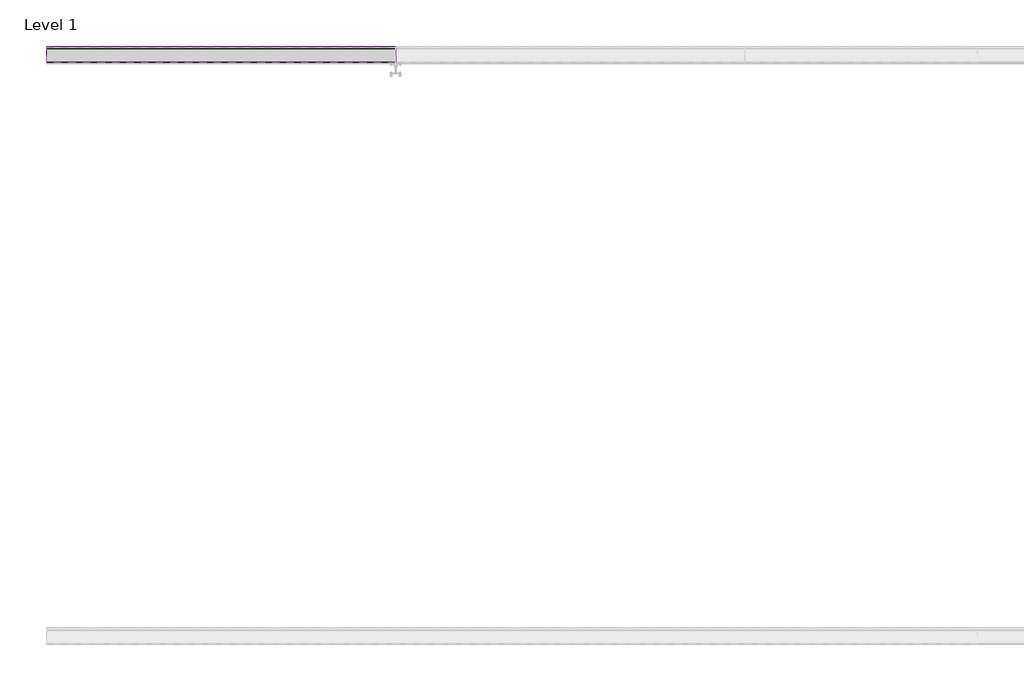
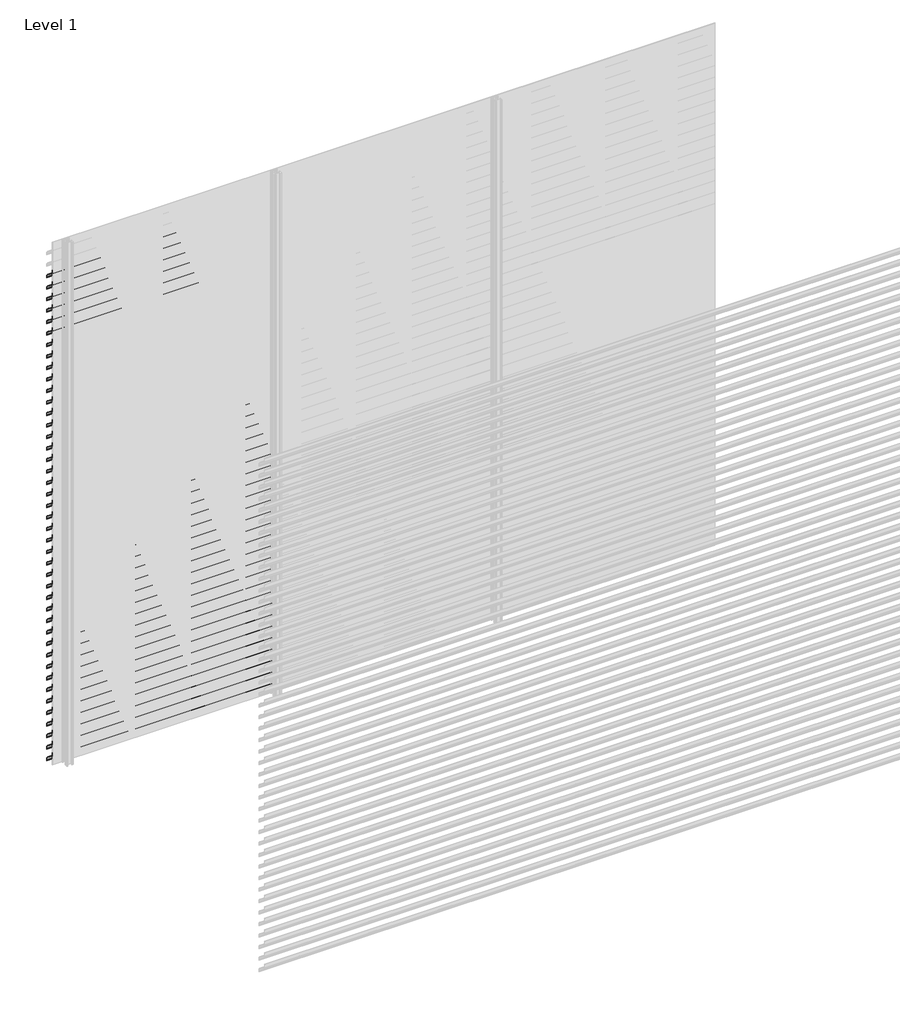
# One storey, part 132 of 540: 43 proxies.
"""IFC4 building model written with IfcOpenShell, lengths in millimetres."""

from ifc_helpers import new_model, si_unit, point, frame, frame_2d, origin, place, context, project, spatial, polyline, circle_curve, trimmed, segment, composite_curve, outline, extrude, element, save

model = new_model("IFC4")

# Units and contexts
model_context = context("Model", 3, world=origin())
ifc_project = project(units=[si_unit("LENGTHUNIT", "METRE", prefix="MILLI")], contexts=[model_context])

# Site, building, storey
site = spatial("IfcSite", under=ifc_project)
building = spatial("IfcBuilding", under=site)
storey = spatial("IfcBuildingStorey", under=building, Name="Level 1", Elevation=0.0)

# Proxies
placement = place(None, origin())
element("IfcBuildingElementProxy", 1, Name="Wall Sweeps", at=placement, inside=storey, context=model_context, shape_type="SweptSolid", body=[
    extrude(outline(composite_curve([segment(trimmed(circle_curve(frame_2d((21513.609548, 2767.7676769)), 26.4944656), [point((21530.5717655, 2788.1205608))], [point((21540.0540136, 2769.3946208))], False, "CARTESIAN"), True, "CONTINUOUS"), segment(polyline([(21540.0540136, 2769.3946208), (21540.0540136, 2761.5), (21538.8040136, 2762.2216933), (21538.8040136, 2767.7676769)]), True, "CONTINUOUS"), segment(trimmed(circle_curve(frame_2d((21513.609548, 2767.7676769)), 25.1944656), [point((21538.8040136, 2767.7676769))], [point((21529.7815085, 2787.086807))], True, "CARTESIAN"), True, "CONTINUOUS"), segment(polyline([(21529.7815085, 2787.086807), (21485.0540136, 2818.3158044), (21485.0540136, 2838.0), (21486.3040136, 2838.0), (21486.3040136, 2819.0285629), (21530.5717655, 2788.1205608)]), True, "CONTINUOUS")], self_intersect=False)), frame((89466.6208097, 0.0, 0.0), z_axis=(1.0, 0.0, 0.0), x_axis=(0.0, 1.0, 0.0)), (0.0, 0.0, 1.0), 1200.0000002),
])
element("IfcBuildingElementProxy", 2, Name="Wall Sweeps", at=placement, inside=storey, context=model_context, shape_type="SweptSolid", body=[
    extrude(outline(composite_curve([segment(trimmed(circle_curve(frame_2d((21513.609548, 2701.7676769)), 26.4944656), [point((21530.5717655, 2722.1205608))], [point((21540.0540136, 2703.3946208))], False, "CARTESIAN"), True, "CONTINUOUS"), segment(polyline([(21540.0540136, 2703.3946208), (21540.0540136, 2695.5), (21538.8040136, 2696.2216933), (21538.8040136, 2701.7676769)]), True, "CONTINUOUS"), segment(trimmed(circle_curve(frame_2d((21513.609548, 2701.7676769)), 25.1944656), [point((21538.8040136, 2701.7676769))], [point((21529.7815085, 2721.086807))], True, "CARTESIAN"), True, "CONTINUOUS"), segment(polyline([(21529.7815085, 2721.086807), (21485.0540136, 2752.3158044), (21485.0540136, 2772.0), (21486.3040136, 2772.0), (21486.3040136, 2753.0285629), (21530.5717655, 2722.1205608)]), True, "CONTINUOUS")], self_intersect=False)), frame((89466.6208097, 0.0, 0.0), z_axis=(1.0, 0.0, 0.0), x_axis=(0.0, 1.0, 0.0)), (0.0, 0.0, 1.0), 1200.0000002),
])
element("IfcBuildingElementProxy", 3, Name="Wall Sweeps", at=placement, inside=storey, context=model_context, shape_type="SweptSolid", body=[
    extrude(outline(composite_curve([segment(trimmed(circle_curve(frame_2d((21513.609548, 2635.7676769)), 26.4944656), [point((21530.5717655, 2656.1205608))], [point((21540.0540136, 2637.3946208))], False, "CARTESIAN"), True, "CONTINUOUS"), segment(polyline([(21540.0540136, 2637.3946208), (21540.0540136, 2629.5), (21538.8040136, 2630.2216933), (21538.8040136, 2635.7676769)]), True, "CONTINUOUS"), segment(trimmed(circle_curve(frame_2d((21513.609548, 2635.7676769)), 25.1944656), [point((21538.8040136, 2635.7676769))], [point((21529.7815085, 2655.086807))], True, "CARTESIAN"), True, "CONTINUOUS"), segment(polyline([(21529.7815085, 2655.086807), (21485.0540136, 2686.3158044), (21485.0540136, 2706.0), (21486.3040136, 2706.0), (21486.3040136, 2687.0285629), (21530.5717655, 2656.1205608)]), True, "CONTINUOUS")], self_intersect=False)), frame((89466.6208097, 0.0, 0.0), z_axis=(1.0, 0.0, 0.0), x_axis=(0.0, 1.0, 0.0)), (0.0, 0.0, 1.0), 1200.0000002),
])
element("IfcBuildingElementProxy", 4, Name="Wall Sweeps", at=placement, inside=storey, context=model_context, shape_type="SweptSolid", body=[
    extrude(outline(composite_curve([segment(trimmed(circle_curve(frame_2d((21513.609548, 2569.7676769)), 26.4944656), [point((21530.5717655, 2590.1205608))], [point((21540.0540136, 2571.3946208))], False, "CARTESIAN"), True, "CONTINUOUS"), segment(polyline([(21540.0540136, 2571.3946208), (21540.0540136, 2563.5), (21538.8040136, 2564.2216933), (21538.8040136, 2569.7676769)]), True, "CONTINUOUS"), segment(trimmed(circle_curve(frame_2d((21513.609548, 2569.7676769)), 25.1944656), [point((21538.8040136, 2569.7676769))], [point((21529.7815085, 2589.086807))], True, "CARTESIAN"), True, "CONTINUOUS"), segment(polyline([(21529.7815085, 2589.086807), (21485.0540136, 2620.3158044), (21485.0540136, 2640.0), (21486.3040136, 2640.0), (21486.3040136, 2621.0285629), (21530.5717655, 2590.1205608)]), True, "CONTINUOUS")], self_intersect=False)), frame((89466.6208097, 0.0, 0.0), z_axis=(1.0, 0.0, 0.0), x_axis=(0.0, 1.0, 0.0)), (0.0, 0.0, 1.0), 1200.0000002),
])
element("IfcBuildingElementProxy", 5, Name="Wall Sweeps", at=placement, inside=storey, context=model_context, shape_type="SweptSolid", body=[
    extrude(outline(composite_curve([segment(trimmed(circle_curve(frame_2d((21513.609548, 2503.7676769)), 26.4944656), [point((21530.5717655, 2524.1205608))], [point((21540.0540136, 2505.3946208))], False, "CARTESIAN"), True, "CONTINUOUS"), segment(polyline([(21540.0540136, 2505.3946208), (21540.0540136, 2497.5), (21538.8040136, 2498.2216933), (21538.8040136, 2503.7676769)]), True, "CONTINUOUS"), segment(trimmed(circle_curve(frame_2d((21513.609548, 2503.7676769)), 25.1944656), [point((21538.8040136, 2503.7676769))], [point((21529.7815085, 2523.086807))], True, "CARTESIAN"), True, "CONTINUOUS"), segment(polyline([(21529.7815085, 2523.086807), (21485.0540136, 2554.3158044), (21485.0540136, 2574.0), (21486.3040136, 2574.0), (21486.3040136, 2555.0285629), (21530.5717655, 2524.1205608)]), True, "CONTINUOUS")], self_intersect=False)), frame((89466.6208097, 0.0, 0.0), z_axis=(1.0, 0.0, 0.0), x_axis=(0.0, 1.0, 0.0)), (0.0, 0.0, 1.0), 1200.0000002),
])
element("IfcBuildingElementProxy", 6, Name="Wall Sweeps", at=placement, inside=storey, context=model_context, shape_type="SweptSolid", body=[
    extrude(outline(composite_curve([segment(trimmed(circle_curve(frame_2d((21513.609548, 2437.7676769)), 26.4944656), [point((21530.5717655, 2458.1205608))], [point((21540.0540136, 2439.3946208))], False, "CARTESIAN"), True, "CONTINUOUS"), segment(polyline([(21540.0540136, 2439.3946208), (21540.0540136, 2431.5), (21538.8040136, 2432.2216933), (21538.8040136, 2437.7676769)]), True, "CONTINUOUS"), segment(trimmed(circle_curve(frame_2d((21513.609548, 2437.7676769)), 25.1944656), [point((21538.8040136, 2437.7676769))], [point((21529.7815085, 2457.086807))], True, "CARTESIAN"), True, "CONTINUOUS"), segment(polyline([(21529.7815085, 2457.086807), (21485.0540136, 2488.3158044), (21485.0540136, 2508.0), (21486.3040136, 2508.0), (21486.3040136, 2489.0285629), (21530.5717655, 2458.1205608)]), True, "CONTINUOUS")], self_intersect=False)), frame((89466.6208097, 0.0, 0.0), z_axis=(1.0, 0.0, 0.0), x_axis=(0.0, 1.0, 0.0)), (0.0, 0.0, 1.0), 1200.0000002),
])
element("IfcBuildingElementProxy", 7, Name="Wall Sweeps", at=placement, inside=storey, context=model_context, shape_type="SweptSolid", body=[
    extrude(outline(composite_curve([segment(trimmed(circle_curve(frame_2d((21513.609548, 2371.7676769)), 26.4944656), [point((21530.5717655, 2392.1205608))], [point((21540.0540136, 2373.3946208))], False, "CARTESIAN"), True, "CONTINUOUS"), segment(polyline([(21540.0540136, 2373.3946208), (21540.0540136, 2365.5), (21538.8040136, 2366.2216933), (21538.8040136, 2371.7676769)]), True, "CONTINUOUS"), segment(trimmed(circle_curve(frame_2d((21513.609548, 2371.7676769)), 25.1944656), [point((21538.8040136, 2371.7676769))], [point((21529.7815085, 2391.086807))], True, "CARTESIAN"), True, "CONTINUOUS"), segment(polyline([(21529.7815085, 2391.086807), (21485.0540136, 2422.3158044), (21485.0540136, 2442.0), (21486.3040136, 2442.0), (21486.3040136, 2423.0285629), (21530.5717655, 2392.1205608)]), True, "CONTINUOUS")], self_intersect=False)), frame((89466.6208097, 0.0, 0.0), z_axis=(1.0, 0.0, 0.0), x_axis=(0.0, 1.0, 0.0)), (0.0, 0.0, 1.0), 1200.0000002),
])
element("IfcBuildingElementProxy", 8, Name="Wall Sweeps", at=placement, inside=storey, context=model_context, shape_type="SweptSolid", body=[
    extrude(outline(composite_curve([segment(trimmed(circle_curve(frame_2d((21513.609548, 2305.7676769)), 26.4944656), [point((21530.5717655, 2326.1205608))], [point((21540.0540136, 2307.3946208))], False, "CARTESIAN"), True, "CONTINUOUS"), segment(polyline([(21540.0540136, 2307.3946208), (21540.0540136, 2299.5), (21538.8040136, 2300.2216933), (21538.8040136, 2305.7676769)]), True, "CONTINUOUS"), segment(trimmed(circle_curve(frame_2d((21513.609548, 2305.7676769)), 25.1944656), [point((21538.8040136, 2305.7676769))], [point((21529.7815085, 2325.086807))], True, "CARTESIAN"), True, "CONTINUOUS"), segment(polyline([(21529.7815085, 2325.086807), (21485.0540136, 2356.3158044), (21485.0540136, 2376.0), (21486.3040136, 2376.0), (21486.3040136, 2357.0285629), (21530.5717655, 2326.1205608)]), True, "CONTINUOUS")], self_intersect=False)), frame((89466.6208097, 0.0, 0.0), z_axis=(1.0, 0.0, 0.0), x_axis=(0.0, 1.0, 0.0)), (0.0, 0.0, 1.0), 1200.0000002),
])
element("IfcBuildingElementProxy", 9, Name="Wall Sweeps", at=placement, inside=storey, context=model_context, shape_type="SweptSolid", body=[
    extrude(outline(composite_curve([segment(trimmed(circle_curve(frame_2d((21513.609548, 2239.7676769)), 26.4944656), [point((21530.5717655, 2260.1205608))], [point((21540.0540136, 2241.3946208))], False, "CARTESIAN"), True, "CONTINUOUS"), segment(polyline([(21540.0540136, 2241.3946208), (21540.0540136, 2233.5), (21538.8040136, 2234.2216933), (21538.8040136, 2239.7676769)]), True, "CONTINUOUS"), segment(trimmed(circle_curve(frame_2d((21513.609548, 2239.7676769)), 25.1944656), [point((21538.8040136, 2239.7676769))], [point((21529.7815085, 2259.086807))], True, "CARTESIAN"), True, "CONTINUOUS"), segment(polyline([(21529.7815085, 2259.086807), (21485.0540136, 2290.3158044), (21485.0540136, 2310.0), (21486.3040136, 2310.0), (21486.3040136, 2291.0285629), (21530.5717655, 2260.1205608)]), True, "CONTINUOUS")], self_intersect=False)), frame((89466.6208097, 0.0, 0.0), z_axis=(1.0, 0.0, 0.0), x_axis=(0.0, 1.0, 0.0)), (0.0, 0.0, 1.0), 1200.0000002),
])
element("IfcBuildingElementProxy", 10, Name="Wall Sweeps", at=placement, inside=storey, context=model_context, shape_type="SweptSolid", body=[
    extrude(outline(composite_curve([segment(trimmed(circle_curve(frame_2d((21513.609548, 2173.7676769)), 26.4944656), [point((21530.5717655, 2194.1205608))], [point((21540.0540136, 2175.3946208))], False, "CARTESIAN"), True, "CONTINUOUS"), segment(polyline([(21540.0540136, 2175.3946208), (21540.0540136, 2167.5), (21538.8040136, 2168.2216933), (21538.8040136, 2173.7676769)]), True, "CONTINUOUS"), segment(trimmed(circle_curve(frame_2d((21513.609548, 2173.7676769)), 25.1944656), [point((21538.8040136, 2173.7676769))], [point((21529.7815085, 2193.086807))], True, "CARTESIAN"), True, "CONTINUOUS"), segment(polyline([(21529.7815085, 2193.086807), (21485.0540136, 2224.3158044), (21485.0540136, 2244.0), (21486.3040136, 2244.0), (21486.3040136, 2225.0285629), (21530.5717655, 2194.1205608)]), True, "CONTINUOUS")], self_intersect=False)), frame((89466.6208097, 0.0, 0.0), z_axis=(1.0, 0.0, 0.0), x_axis=(0.0, 1.0, 0.0)), (0.0, 0.0, 1.0), 1200.0000002),
])
element("IfcBuildingElementProxy", 11, Name="Wall Sweeps", at=placement, inside=storey, context=model_context, shape_type="SweptSolid", body=[
    extrude(outline(composite_curve([segment(trimmed(circle_curve(frame_2d((21513.609548, 2107.7676769)), 26.4944656), [point((21530.5717655, 2128.1205608))], [point((21540.0540136, 2109.3946208))], False, "CARTESIAN"), True, "CONTINUOUS"), segment(polyline([(21540.0540136, 2109.3946208), (21540.0540136, 2101.5), (21538.8040136, 2102.2216933), (21538.8040136, 2107.7676769)]), True, "CONTINUOUS"), segment(trimmed(circle_curve(frame_2d((21513.609548, 2107.7676769)), 25.1944656), [point((21538.8040136, 2107.7676769))], [point((21529.7815085, 2127.086807))], True, "CARTESIAN"), True, "CONTINUOUS"), segment(polyline([(21529.7815085, 2127.086807), (21485.0540136, 2158.3158044), (21485.0540136, 2178.0), (21486.3040136, 2178.0), (21486.3040136, 2159.0285629), (21530.5717655, 2128.1205608)]), True, "CONTINUOUS")], self_intersect=False)), frame((89466.6208097, 0.0, 0.0), z_axis=(1.0, 0.0, 0.0), x_axis=(0.0, 1.0, 0.0)), (0.0, 0.0, 1.0), 1200.0000002),
])
element("IfcBuildingElementProxy", 12, Name="Wall Sweeps", at=placement, inside=storey, context=model_context, shape_type="SweptSolid", body=[
    extrude(outline(composite_curve([segment(trimmed(circle_curve(frame_2d((21513.609548, 2041.7676769)), 26.4944656), [point((21530.5717655, 2062.1205608))], [point((21540.0540136, 2043.3946208))], False, "CARTESIAN"), True, "CONTINUOUS"), segment(polyline([(21540.0540136, 2043.3946208), (21540.0540136, 2035.5), (21538.8040136, 2036.2216933), (21538.8040136, 2041.7676769)]), True, "CONTINUOUS"), segment(trimmed(circle_curve(frame_2d((21513.609548, 2041.7676769)), 25.1944656), [point((21538.8040136, 2041.7676769))], [point((21529.7815085, 2061.086807))], True, "CARTESIAN"), True, "CONTINUOUS"), segment(polyline([(21529.7815085, 2061.086807), (21485.0540136, 2092.3158044), (21485.0540136, 2112.0), (21486.3040136, 2112.0), (21486.3040136, 2093.0285629), (21530.5717655, 2062.1205608)]), True, "CONTINUOUS")], self_intersect=False)), frame((89466.6208097, 0.0, 0.0), z_axis=(1.0, 0.0, 0.0), x_axis=(0.0, 1.0, 0.0)), (0.0, 0.0, 1.0), 1200.0000002),
])
element("IfcBuildingElementProxy", 13, Name="Wall Sweeps", at=placement, inside=storey, context=model_context, shape_type="SweptSolid", body=[
    extrude(outline(composite_curve([segment(trimmed(circle_curve(frame_2d((21513.609548, 1975.7676769)), 26.4944656), [point((21530.5717655, 1996.1205608))], [point((21540.0540136, 1977.3946208))], False, "CARTESIAN"), True, "CONTINUOUS"), segment(polyline([(21540.0540136, 1977.3946208), (21540.0540136, 1969.5), (21538.8040136, 1970.2216933), (21538.8040136, 1975.7676769)]), True, "CONTINUOUS"), segment(trimmed(circle_curve(frame_2d((21513.609548, 1975.7676769)), 25.1944656), [point((21538.8040136, 1975.7676769))], [point((21529.7815085, 1995.086807))], True, "CARTESIAN"), True, "CONTINUOUS"), segment(polyline([(21529.7815085, 1995.086807), (21485.0540136, 2026.3158044), (21485.0540136, 2046.0), (21486.3040136, 2046.0), (21486.3040136, 2027.0285629), (21530.5717655, 1996.1205608)]), True, "CONTINUOUS")], self_intersect=False)), frame((89466.6208097, 0.0, 0.0), z_axis=(1.0, 0.0, 0.0), x_axis=(0.0, 1.0, 0.0)), (0.0, 0.0, 1.0), 1200.0000002),
])
element("IfcBuildingElementProxy", 14, Name="Wall Sweeps", at=placement, inside=storey, context=model_context, shape_type="SweptSolid", body=[
    extrude(outline(composite_curve([segment(trimmed(circle_curve(frame_2d((21513.609548, 1909.7676769)), 26.4944656), [point((21530.5717655, 1930.1205608))], [point((21540.0540136, 1911.3946208))], False, "CARTESIAN"), True, "CONTINUOUS"), segment(polyline([(21540.0540136, 1911.3946208), (21540.0540136, 1903.5), (21538.8040136, 1904.2216933), (21538.8040136, 1909.7676769)]), True, "CONTINUOUS"), segment(trimmed(circle_curve(frame_2d((21513.609548, 1909.7676769)), 25.1944656), [point((21538.8040136, 1909.7676769))], [point((21529.7815085, 1929.086807))], True, "CARTESIAN"), True, "CONTINUOUS"), segment(polyline([(21529.7815085, 1929.086807), (21485.0540136, 1960.3158044), (21485.0540136, 1980.0), (21486.3040136, 1980.0), (21486.3040136, 1961.0285629), (21530.5717655, 1930.1205608)]), True, "CONTINUOUS")], self_intersect=False)), frame((89466.6208097, 0.0, 0.0), z_axis=(1.0, 0.0, 0.0), x_axis=(0.0, 1.0, 0.0)), (0.0, 0.0, 1.0), 1200.0000002),
])
element("IfcBuildingElementProxy", 15, Name="Wall Sweeps", at=placement, inside=storey, context=model_context, shape_type="SweptSolid", body=[
    extrude(outline(composite_curve([segment(trimmed(circle_curve(frame_2d((21513.609548, 1843.7676769)), 26.4944656), [point((21530.5717655, 1864.1205608))], [point((21540.0540136, 1845.3946208))], False, "CARTESIAN"), True, "CONTINUOUS"), segment(polyline([(21540.0540136, 1845.3946208), (21540.0540136, 1837.5), (21538.8040136, 1838.2216933), (21538.8040136, 1843.7676769)]), True, "CONTINUOUS"), segment(trimmed(circle_curve(frame_2d((21513.609548, 1843.7676769)), 25.1944656), [point((21538.8040136, 1843.7676769))], [point((21529.7815085, 1863.086807))], True, "CARTESIAN"), True, "CONTINUOUS"), segment(polyline([(21529.7815085, 1863.086807), (21485.0540136, 1894.3158044), (21485.0540136, 1914.0), (21486.3040136, 1914.0), (21486.3040136, 1895.0285629), (21530.5717655, 1864.1205608)]), True, "CONTINUOUS")], self_intersect=False)), frame((89466.6208097, 0.0, 0.0), z_axis=(1.0, 0.0, 0.0), x_axis=(0.0, 1.0, 0.0)), (0.0, 0.0, 1.0), 1200.0000002),
])
element("IfcBuildingElementProxy", 16, Name="Wall Sweeps", at=placement, inside=storey, context=model_context, shape_type="SweptSolid", body=[
    extrude(outline(composite_curve([segment(trimmed(circle_curve(frame_2d((21513.609548, 1777.7676769)), 26.4944656), [point((21530.5717655, 1798.1205608))], [point((21540.0540136, 1779.3946208))], False, "CARTESIAN"), True, "CONTINUOUS"), segment(polyline([(21540.0540136, 1779.3946208), (21540.0540136, 1771.5), (21538.8040136, 1772.2216933), (21538.8040136, 1777.7676769)]), True, "CONTINUOUS"), segment(trimmed(circle_curve(frame_2d((21513.609548, 1777.7676769)), 25.1944656), [point((21538.8040136, 1777.7676769))], [point((21529.7815085, 1797.086807))], True, "CARTESIAN"), True, "CONTINUOUS"), segment(polyline([(21529.7815085, 1797.086807), (21485.0540136, 1828.3158044), (21485.0540136, 1848.0), (21486.3040136, 1848.0), (21486.3040136, 1829.0285629), (21530.5717655, 1798.1205608)]), True, "CONTINUOUS")], self_intersect=False)), frame((89466.6208097, 0.0, 0.0), z_axis=(1.0, 0.0, 0.0), x_axis=(0.0, 1.0, 0.0)), (0.0, 0.0, 1.0), 1200.0000002),
])
element("IfcBuildingElementProxy", 17, Name="Wall Sweeps", at=placement, inside=storey, context=model_context, shape_type="SweptSolid", body=[
    extrude(outline(composite_curve([segment(trimmed(circle_curve(frame_2d((21513.609548, 1711.7676769)), 26.4944656), [point((21530.5717655, 1732.1205608))], [point((21540.0540136, 1713.3946208))], False, "CARTESIAN"), True, "CONTINUOUS"), segment(polyline([(21540.0540136, 1713.3946208), (21540.0540136, 1705.5), (21538.8040136, 1706.2216933), (21538.8040136, 1711.7676769)]), True, "CONTINUOUS"), segment(trimmed(circle_curve(frame_2d((21513.609548, 1711.7676769)), 25.1944656), [point((21538.8040136, 1711.7676769))], [point((21529.7815085, 1731.086807))], True, "CARTESIAN"), True, "CONTINUOUS"), segment(polyline([(21529.7815085, 1731.086807), (21485.0540136, 1762.3158044), (21485.0540136, 1782.0), (21486.3040136, 1782.0), (21486.3040136, 1763.0285629), (21530.5717655, 1732.1205608)]), True, "CONTINUOUS")], self_intersect=False)), frame((89466.6208097, 0.0, 0.0), z_axis=(1.0, 0.0, 0.0), x_axis=(0.0, 1.0, 0.0)), (0.0, 0.0, 1.0), 1200.0000002),
])
element("IfcBuildingElementProxy", 18, Name="Wall Sweeps", at=placement, inside=storey, context=model_context, shape_type="SweptSolid", body=[
    extrude(outline(composite_curve([segment(trimmed(circle_curve(frame_2d((21513.609548, 1645.7676769)), 26.4944656), [point((21530.5717655, 1666.1205608))], [point((21540.0540136, 1647.3946208))], False, "CARTESIAN"), True, "CONTINUOUS"), segment(polyline([(21540.0540136, 1647.3946208), (21540.0540136, 1639.5), (21538.8040136, 1640.2216933), (21538.8040136, 1645.7676769)]), True, "CONTINUOUS"), segment(trimmed(circle_curve(frame_2d((21513.609548, 1645.7676769)), 25.1944656), [point((21538.8040136, 1645.7676769))], [point((21529.7815085, 1665.086807))], True, "CARTESIAN"), True, "CONTINUOUS"), segment(polyline([(21529.7815085, 1665.086807), (21485.0540136, 1696.3158044), (21485.0540136, 1716.0), (21486.3040136, 1716.0), (21486.3040136, 1697.0285629), (21530.5717655, 1666.1205608)]), True, "CONTINUOUS")], self_intersect=False)), frame((89466.6208097, 0.0, 0.0), z_axis=(1.0, 0.0, 0.0), x_axis=(0.0, 1.0, 0.0)), (0.0, 0.0, 1.0), 1200.0000002),
])
element("IfcBuildingElementProxy", 19, Name="Wall Sweeps", at=placement, inside=storey, context=model_context, shape_type="SweptSolid", body=[
    extrude(outline(composite_curve([segment(trimmed(circle_curve(frame_2d((21513.609548, 1579.7676769)), 26.4944656), [point((21530.5717655, 1600.1205608))], [point((21540.0540136, 1581.3946208))], False, "CARTESIAN"), True, "CONTINUOUS"), segment(polyline([(21540.0540136, 1581.3946208), (21540.0540136, 1573.5), (21538.8040136, 1574.2216933), (21538.8040136, 1579.7676769)]), True, "CONTINUOUS"), segment(trimmed(circle_curve(frame_2d((21513.609548, 1579.7676769)), 25.1944656), [point((21538.8040136, 1579.7676769))], [point((21529.7815085, 1599.086807))], True, "CARTESIAN"), True, "CONTINUOUS"), segment(polyline([(21529.7815085, 1599.086807), (21485.0540136, 1630.3158044), (21485.0540136, 1650.0), (21486.3040136, 1650.0), (21486.3040136, 1631.0285629), (21530.5717655, 1600.1205608)]), True, "CONTINUOUS")], self_intersect=False)), frame((89466.6208097, 0.0, 0.0), z_axis=(1.0, 0.0, 0.0), x_axis=(0.0, 1.0, 0.0)), (0.0, 0.0, 1.0), 1200.0000002),
])
element("IfcBuildingElementProxy", 20, Name="Wall Sweeps", at=placement, inside=storey, context=model_context, shape_type="SweptSolid", body=[
    extrude(outline(composite_curve([segment(trimmed(circle_curve(frame_2d((21513.609548, 1513.7676769)), 26.4944656), [point((21530.5717655, 1534.1205608))], [point((21540.0540136, 1515.3946208))], False, "CARTESIAN"), True, "CONTINUOUS"), segment(polyline([(21540.0540136, 1515.3946208), (21540.0540136, 1507.5), (21538.8040136, 1508.2216933), (21538.8040136, 1513.7676769)]), True, "CONTINUOUS"), segment(trimmed(circle_curve(frame_2d((21513.609548, 1513.7676769)), 25.1944656), [point((21538.8040136, 1513.7676769))], [point((21529.7815085, 1533.086807))], True, "CARTESIAN"), True, "CONTINUOUS"), segment(polyline([(21529.7815085, 1533.086807), (21485.0540136, 1564.3158044), (21485.0540136, 1584.0), (21486.3040136, 1584.0), (21486.3040136, 1565.0285629), (21530.5717655, 1534.1205608)]), True, "CONTINUOUS")], self_intersect=False)), frame((89466.6208097, 0.0, 0.0), z_axis=(1.0, 0.0, 0.0), x_axis=(0.0, 1.0, 0.0)), (0.0, 0.0, 1.0), 1200.0000002),
])
element("IfcBuildingElementProxy", 21, Name="Wall Sweeps", at=placement, inside=storey, context=model_context, shape_type="SweptSolid", body=[
    extrude(outline(composite_curve([segment(trimmed(circle_curve(frame_2d((21513.609548, 1447.7676769)), 26.4944656), [point((21530.5717655, 1468.1205608))], [point((21540.0540136, 1449.3946208))], False, "CARTESIAN"), True, "CONTINUOUS"), segment(polyline([(21540.0540136, 1449.3946208), (21540.0540136, 1441.5), (21538.8040136, 1442.2216933), (21538.8040136, 1447.7676769)]), True, "CONTINUOUS"), segment(trimmed(circle_curve(frame_2d((21513.609548, 1447.7676769)), 25.1944656), [point((21538.8040136, 1447.7676769))], [point((21529.7815085, 1467.086807))], True, "CARTESIAN"), True, "CONTINUOUS"), segment(polyline([(21529.7815085, 1467.086807), (21485.0540136, 1498.3158044), (21485.0540136, 1518.0), (21486.3040136, 1518.0), (21486.3040136, 1499.0285629), (21530.5717655, 1468.1205608)]), True, "CONTINUOUS")], self_intersect=False)), frame((89466.6208097, 0.0, 0.0), z_axis=(1.0, 0.0, 0.0), x_axis=(0.0, 1.0, 0.0)), (0.0, 0.0, 1.0), 1200.0000002),
])
element("IfcBuildingElementProxy", 22, Name="Wall Sweeps", at=placement, inside=storey, context=model_context, shape_type="SweptSolid", body=[
    extrude(outline(composite_curve([segment(trimmed(circle_curve(frame_2d((21513.609548, 1381.7676769)), 26.4944656), [point((21530.5717655, 1402.1205608))], [point((21540.0540136, 1383.3946208))], False, "CARTESIAN"), True, "CONTINUOUS"), segment(polyline([(21540.0540136, 1383.3946208), (21540.0540136, 1375.5), (21538.8040136, 1376.2216933), (21538.8040136, 1381.7676769)]), True, "CONTINUOUS"), segment(trimmed(circle_curve(frame_2d((21513.609548, 1381.7676769)), 25.1944656), [point((21538.8040136, 1381.7676769))], [point((21529.7815085, 1401.086807))], True, "CARTESIAN"), True, "CONTINUOUS"), segment(polyline([(21529.7815085, 1401.086807), (21485.0540136, 1432.3158044), (21485.0540136, 1452.0), (21486.3040136, 1452.0), (21486.3040136, 1433.0285629), (21530.5717655, 1402.1205608)]), True, "CONTINUOUS")], self_intersect=False)), frame((89466.6208097, 0.0, 0.0), z_axis=(1.0, 0.0, 0.0), x_axis=(0.0, 1.0, 0.0)), (0.0, 0.0, 1.0), 1200.0000002),
])
element("IfcBuildingElementProxy", 23, Name="Wall Sweeps", at=placement, inside=storey, context=model_context, shape_type="SweptSolid", body=[
    extrude(outline(composite_curve([segment(trimmed(circle_curve(frame_2d((21513.609548, 1315.7676769)), 26.4944656), [point((21530.5717655, 1336.1205608))], [point((21540.0540136, 1317.3946208))], False, "CARTESIAN"), True, "CONTINUOUS"), segment(polyline([(21540.0540136, 1317.3946208), (21540.0540136, 1309.5), (21538.8040136, 1310.2216933), (21538.8040136, 1315.7676769)]), True, "CONTINUOUS"), segment(trimmed(circle_curve(frame_2d((21513.609548, 1315.7676769)), 25.1944656), [point((21538.8040136, 1315.7676769))], [point((21529.7815085, 1335.086807))], True, "CARTESIAN"), True, "CONTINUOUS"), segment(polyline([(21529.7815085, 1335.086807), (21485.0540136, 1366.3158044), (21485.0540136, 1386.0), (21486.3040136, 1386.0), (21486.3040136, 1367.0285629), (21530.5717655, 1336.1205608)]), True, "CONTINUOUS")], self_intersect=False)), frame((89466.6208097, 0.0, 0.0), z_axis=(1.0, 0.0, 0.0), x_axis=(0.0, 1.0, 0.0)), (0.0, 0.0, 1.0), 1200.0000002),
])
element("IfcBuildingElementProxy", 24, Name="Wall Sweeps", at=placement, inside=storey, context=model_context, shape_type="SweptSolid", body=[
    extrude(outline(composite_curve([segment(trimmed(circle_curve(frame_2d((21513.609548, 1249.7676769)), 26.4944656), [point((21530.5717655, 1270.1205608))], [point((21540.0540136, 1251.3946208))], False, "CARTESIAN"), True, "CONTINUOUS"), segment(polyline([(21540.0540136, 1251.3946208), (21540.0540136, 1243.5), (21538.8040136, 1244.2216933), (21538.8040136, 1249.7676769)]), True, "CONTINUOUS"), segment(trimmed(circle_curve(frame_2d((21513.609548, 1249.7676769)), 25.1944656), [point((21538.8040136, 1249.7676769))], [point((21529.7815085, 1269.086807))], True, "CARTESIAN"), True, "CONTINUOUS"), segment(polyline([(21529.7815085, 1269.086807), (21485.0540136, 1300.3158044), (21485.0540136, 1320.0), (21486.3040136, 1320.0), (21486.3040136, 1301.0285629), (21530.5717655, 1270.1205608)]), True, "CONTINUOUS")], self_intersect=False)), frame((89466.6208097, 0.0, 0.0), z_axis=(1.0, 0.0, 0.0), x_axis=(0.0, 1.0, 0.0)), (0.0, 0.0, 1.0), 1200.0000002),
])
element("IfcBuildingElementProxy", 25, Name="Wall Sweeps", at=placement, inside=storey, context=model_context, shape_type="SweptSolid", body=[
    extrude(outline(composite_curve([segment(trimmed(circle_curve(frame_2d((21513.609548, 1183.7676769)), 26.4944656), [point((21530.5717655, 1204.1205608))], [point((21540.0540136, 1185.3946208))], False, "CARTESIAN"), True, "CONTINUOUS"), segment(polyline([(21540.0540136, 1185.3946208), (21540.0540136, 1177.5), (21538.8040136, 1178.2216933), (21538.8040136, 1183.7676769)]), True, "CONTINUOUS"), segment(trimmed(circle_curve(frame_2d((21513.609548, 1183.7676769)), 25.1944656), [point((21538.8040136, 1183.7676769))], [point((21529.7815085, 1203.086807))], True, "CARTESIAN"), True, "CONTINUOUS"), segment(polyline([(21529.7815085, 1203.086807), (21485.0540136, 1234.3158044), (21485.0540136, 1254.0), (21486.3040136, 1254.0), (21486.3040136, 1235.0285629), (21530.5717655, 1204.1205608)]), True, "CONTINUOUS")], self_intersect=False)), frame((89466.6208097, 0.0, 0.0), z_axis=(1.0, 0.0, 0.0), x_axis=(0.0, 1.0, 0.0)), (0.0, 0.0, 1.0), 1200.0000002),
])
element("IfcBuildingElementProxy", 26, Name="Wall Sweeps", at=placement, inside=storey, context=model_context, shape_type="SweptSolid", body=[
    extrude(outline(composite_curve([segment(trimmed(circle_curve(frame_2d((21513.609548, 1117.7676769)), 26.4944656), [point((21530.5717655, 1138.1205608))], [point((21540.0540136, 1119.3946208))], False, "CARTESIAN"), True, "CONTINUOUS"), segment(polyline([(21540.0540136, 1119.3946208), (21540.0540136, 1111.5), (21538.8040136, 1112.2216933), (21538.8040136, 1117.7676769)]), True, "CONTINUOUS"), segment(trimmed(circle_curve(frame_2d((21513.609548, 1117.7676769)), 25.1944656), [point((21538.8040136, 1117.7676769))], [point((21529.7815085, 1137.086807))], True, "CARTESIAN"), True, "CONTINUOUS"), segment(polyline([(21529.7815085, 1137.086807), (21485.0540136, 1168.3158044), (21485.0540136, 1188.0), (21486.3040136, 1188.0), (21486.3040136, 1169.0285629), (21530.5717655, 1138.1205608)]), True, "CONTINUOUS")], self_intersect=False)), frame((89466.6208097, 0.0, 0.0), z_axis=(1.0, 0.0, 0.0), x_axis=(0.0, 1.0, 0.0)), (0.0, 0.0, 1.0), 1200.0000002),
])
element("IfcBuildingElementProxy", 27, Name="Wall Sweeps", at=placement, inside=storey, context=model_context, shape_type="SweptSolid", body=[
    extrude(outline(composite_curve([segment(trimmed(circle_curve(frame_2d((21513.609548, 1051.7676769)), 26.4944656), [point((21530.5717655, 1072.1205608))], [point((21540.0540136, 1053.3946208))], False, "CARTESIAN"), True, "CONTINUOUS"), segment(polyline([(21540.0540136, 1053.3946208), (21540.0540136, 1045.5), (21538.8040136, 1046.2216933), (21538.8040136, 1051.7676769)]), True, "CONTINUOUS"), segment(trimmed(circle_curve(frame_2d((21513.609548, 1051.7676769)), 25.1944656), [point((21538.8040136, 1051.7676769))], [point((21529.7815085, 1071.086807))], True, "CARTESIAN"), True, "CONTINUOUS"), segment(polyline([(21529.7815085, 1071.086807), (21485.0540136, 1102.3158044), (21485.0540136, 1122.0), (21486.3040136, 1122.0), (21486.3040136, 1103.0285629), (21530.5717655, 1072.1205608)]), True, "CONTINUOUS")], self_intersect=False)), frame((89466.6208097, 0.0, 0.0), z_axis=(1.0, 0.0, 0.0), x_axis=(0.0, 1.0, 0.0)), (0.0, 0.0, 1.0), 1200.0000002),
])
element("IfcBuildingElementProxy", 28, Name="Wall Sweeps", at=placement, inside=storey, context=model_context, shape_type="SweptSolid", body=[
    extrude(outline(composite_curve([segment(trimmed(circle_curve(frame_2d((21513.609548, 985.7676769)), 26.4944656), [point((21530.5717655, 1006.1205608))], [point((21540.0540136, 987.3946208))], False, "CARTESIAN"), True, "CONTINUOUS"), segment(polyline([(21540.0540136, 987.3946208), (21540.0540136, 979.5), (21538.8040136, 980.2216933), (21538.8040136, 985.7676769)]), True, "CONTINUOUS"), segment(trimmed(circle_curve(frame_2d((21513.609548, 985.7676769)), 25.1944656), [point((21538.8040136, 985.7676769))], [point((21529.7815085, 1005.086807))], True, "CARTESIAN"), True, "CONTINUOUS"), segment(polyline([(21529.7815085, 1005.086807), (21485.0540136, 1036.3158044), (21485.0540136, 1056.0), (21486.3040136, 1056.0), (21486.3040136, 1037.0285629), (21530.5717655, 1006.1205608)]), True, "CONTINUOUS")], self_intersect=False)), frame((89466.6208097, 0.0, 0.0), z_axis=(1.0, 0.0, 0.0), x_axis=(0.0, 1.0, 0.0)), (0.0, 0.0, 1.0), 1200.0000002),
])
element("IfcBuildingElementProxy", 29, Name="Wall Sweeps", at=placement, inside=storey, context=model_context, shape_type="SweptSolid", body=[
    extrude(outline(composite_curve([segment(trimmed(circle_curve(frame_2d((21513.609548, 919.7676769)), 26.4944656), [point((21530.5717655, 940.1205608))], [point((21540.0540136, 921.3946208))], False, "CARTESIAN"), True, "CONTINUOUS"), segment(polyline([(21540.0540136, 921.3946208), (21540.0540136, 913.5), (21538.8040136, 914.2216933), (21538.8040136, 919.7676769)]), True, "CONTINUOUS"), segment(trimmed(circle_curve(frame_2d((21513.609548, 919.7676769)), 25.1944656), [point((21538.8040136, 919.7676769))], [point((21529.7815085, 939.086807))], True, "CARTESIAN"), True, "CONTINUOUS"), segment(polyline([(21529.7815085, 939.086807), (21485.0540136, 970.3158044), (21485.0540136, 990.0), (21486.3040136, 990.0), (21486.3040136, 971.0285629), (21530.5717655, 940.1205608)]), True, "CONTINUOUS")], self_intersect=False)), frame((89466.6208097, 0.0, 0.0), z_axis=(1.0, 0.0, 0.0), x_axis=(0.0, 1.0, 0.0)), (0.0, 0.0, 1.0), 1200.0000002),
])
element("IfcBuildingElementProxy", 30, Name="Wall Sweeps", at=placement, inside=storey, context=model_context, shape_type="SweptSolid", body=[
    extrude(outline(composite_curve([segment(trimmed(circle_curve(frame_2d((21513.609548, 853.7676769)), 26.4944656), [point((21530.5717655, 874.1205608))], [point((21540.0540136, 855.3946208))], False, "CARTESIAN"), True, "CONTINUOUS"), segment(polyline([(21540.0540136, 855.3946208), (21540.0540136, 847.5), (21538.8040136, 848.2216933), (21538.8040136, 853.7676769)]), True, "CONTINUOUS"), segment(trimmed(circle_curve(frame_2d((21513.609548, 853.7676769)), 25.1944656), [point((21538.8040136, 853.7676769))], [point((21529.7815085, 873.086807))], True, "CARTESIAN"), True, "CONTINUOUS"), segment(polyline([(21529.7815085, 873.086807), (21485.0540136, 904.3158044), (21485.0540136, 924.0), (21486.3040136, 924.0), (21486.3040136, 905.0285629), (21530.5717655, 874.1205608)]), True, "CONTINUOUS")], self_intersect=False)), frame((89466.6208097, 0.0, 0.0), z_axis=(1.0, 0.0, 0.0), x_axis=(0.0, 1.0, 0.0)), (0.0, 0.0, 1.0), 1200.0000002),
])
element("IfcBuildingElementProxy", 31, Name="Wall Sweeps", at=placement, inside=storey, context=model_context, shape_type="SweptSolid", body=[
    extrude(outline(composite_curve([segment(trimmed(circle_curve(frame_2d((21513.609548, 787.7676769)), 26.4944656), [point((21530.5717655, 808.1205608))], [point((21540.0540136, 789.3946208))], False, "CARTESIAN"), True, "CONTINUOUS"), segment(polyline([(21540.0540136, 789.3946208), (21540.0540136, 781.5), (21538.8040136, 782.2216933), (21538.8040136, 787.7676769)]), True, "CONTINUOUS"), segment(trimmed(circle_curve(frame_2d((21513.609548, 787.7676769)), 25.1944656), [point((21538.8040136, 787.7676769))], [point((21529.7815085, 807.086807))], True, "CARTESIAN"), True, "CONTINUOUS"), segment(polyline([(21529.7815085, 807.086807), (21485.0540136, 838.3158044), (21485.0540136, 858.0), (21486.3040136, 858.0), (21486.3040136, 839.0285629), (21530.5717655, 808.1205608)]), True, "CONTINUOUS")], self_intersect=False)), frame((89466.6208097, 0.0, 0.0), z_axis=(1.0, 0.0, 0.0), x_axis=(0.0, 1.0, 0.0)), (0.0, 0.0, 1.0), 1200.0000002),
])
element("IfcBuildingElementProxy", 32, Name="Wall Sweeps", at=placement, inside=storey, context=model_context, shape_type="SweptSolid", body=[
    extrude(outline(composite_curve([segment(trimmed(circle_curve(frame_2d((21513.609548, 721.7676769)), 26.4944656), [point((21530.5717655, 742.1205608))], [point((21540.0540136, 723.3946208))], False, "CARTESIAN"), True, "CONTINUOUS"), segment(polyline([(21540.0540136, 723.3946208), (21540.0540136, 715.5), (21538.8040136, 716.2216933), (21538.8040136, 721.7676769)]), True, "CONTINUOUS"), segment(trimmed(circle_curve(frame_2d((21513.609548, 721.7676769)), 25.1944656), [point((21538.8040136, 721.7676769))], [point((21529.7815085, 741.086807))], True, "CARTESIAN"), True, "CONTINUOUS"), segment(polyline([(21529.7815085, 741.086807), (21485.0540136, 772.3158044), (21485.0540136, 792.0), (21486.3040136, 792.0), (21486.3040136, 773.0285629), (21530.5717655, 742.1205608)]), True, "CONTINUOUS")], self_intersect=False)), frame((89466.6208097, 0.0, 0.0), z_axis=(1.0, 0.0, 0.0), x_axis=(0.0, 1.0, 0.0)), (0.0, 0.0, 1.0), 1200.0000002),
])
element("IfcBuildingElementProxy", 33, Name="Wall Sweeps", at=placement, inside=storey, context=model_context, shape_type="SweptSolid", body=[
    extrude(outline(composite_curve([segment(trimmed(circle_curve(frame_2d((21513.609548, 655.7676769)), 26.4944656), [point((21530.5717655, 676.1205608))], [point((21540.0540136, 657.3946208))], False, "CARTESIAN"), True, "CONTINUOUS"), segment(polyline([(21540.0540136, 657.3946208), (21540.0540136, 649.5), (21538.8040136, 650.2216933), (21538.8040136, 655.7676769)]), True, "CONTINUOUS"), segment(trimmed(circle_curve(frame_2d((21513.609548, 655.7676769)), 25.1944656), [point((21538.8040136, 655.7676769))], [point((21529.7815085, 675.086807))], True, "CARTESIAN"), True, "CONTINUOUS"), segment(polyline([(21529.7815085, 675.086807), (21485.0540136, 706.3158044), (21485.0540136, 726.0), (21486.3040136, 726.0), (21486.3040136, 707.0285629), (21530.5717655, 676.1205608)]), True, "CONTINUOUS")], self_intersect=False)), frame((89466.6208097, 0.0, 0.0), z_axis=(1.0, 0.0, 0.0), x_axis=(0.0, 1.0, 0.0)), (0.0, 0.0, 1.0), 1200.0000002),
])
element("IfcBuildingElementProxy", 34, Name="Wall Sweeps", at=placement, inside=storey, context=model_context, shape_type="SweptSolid", body=[
    extrude(outline(composite_curve([segment(trimmed(circle_curve(frame_2d((21513.609548, 589.7676769)), 26.4944656), [point((21530.5717655, 610.1205608))], [point((21540.0540136, 591.3946208))], False, "CARTESIAN"), True, "CONTINUOUS"), segment(polyline([(21540.0540136, 591.3946208), (21540.0540136, 583.5), (21538.8040136, 584.2216933), (21538.8040136, 589.7676769)]), True, "CONTINUOUS"), segment(trimmed(circle_curve(frame_2d((21513.609548, 589.7676769)), 25.1944656), [point((21538.8040136, 589.7676769))], [point((21529.7815085, 609.086807))], True, "CARTESIAN"), True, "CONTINUOUS"), segment(polyline([(21529.7815085, 609.086807), (21485.0540136, 640.3158044), (21485.0540136, 660.0), (21486.3040136, 660.0), (21486.3040136, 641.0285629), (21530.5717655, 610.1205608)]), True, "CONTINUOUS")], self_intersect=False)), frame((89466.6208097, 0.0, 0.0), z_axis=(1.0, 0.0, 0.0), x_axis=(0.0, 1.0, 0.0)), (0.0, 0.0, 1.0), 1200.0000002),
])
element("IfcBuildingElementProxy", 35, Name="Wall Sweeps", at=placement, inside=storey, context=model_context, shape_type="SweptSolid", body=[
    extrude(outline(composite_curve([segment(trimmed(circle_curve(frame_2d((21513.609548, 523.7676769)), 26.4944656), [point((21530.5717655, 544.1205608))], [point((21540.0540136, 525.3946208))], False, "CARTESIAN"), True, "CONTINUOUS"), segment(polyline([(21540.0540136, 525.3946208), (21540.0540136, 517.5), (21538.8040136, 518.2216933), (21538.8040136, 523.7676769)]), True, "CONTINUOUS"), segment(trimmed(circle_curve(frame_2d((21513.609548, 523.7676769)), 25.1944656), [point((21538.8040136, 523.7676769))], [point((21529.7815085, 543.086807))], True, "CARTESIAN"), True, "CONTINUOUS"), segment(polyline([(21529.7815085, 543.086807), (21485.0540136, 574.3158044), (21485.0540136, 594.0), (21486.3040136, 594.0), (21486.3040136, 575.0285629), (21530.5717655, 544.1205608)]), True, "CONTINUOUS")], self_intersect=False)), frame((89466.6208097, 0.0, 0.0), z_axis=(1.0, 0.0, 0.0), x_axis=(0.0, 1.0, 0.0)), (0.0, 0.0, 1.0), 1200.0000002),
])
element("IfcBuildingElementProxy", 36, Name="Wall Sweeps", at=placement, inside=storey, context=model_context, shape_type="SweptSolid", body=[
    extrude(outline(composite_curve([segment(trimmed(circle_curve(frame_2d((21513.609548, 457.7676769)), 26.4944656), [point((21530.5717655, 478.1205608))], [point((21540.0540136, 459.3946208))], False, "CARTESIAN"), True, "CONTINUOUS"), segment(polyline([(21540.0540136, 459.3946208), (21540.0540136, 451.5), (21538.8040136, 452.2216933), (21538.8040136, 457.7676769)]), True, "CONTINUOUS"), segment(trimmed(circle_curve(frame_2d((21513.609548, 457.7676769)), 25.1944656), [point((21538.8040136, 457.7676769))], [point((21529.7815085, 477.086807))], True, "CARTESIAN"), True, "CONTINUOUS"), segment(polyline([(21529.7815085, 477.086807), (21485.0540136, 508.3158044), (21485.0540136, 528.0), (21486.3040136, 528.0), (21486.3040136, 509.0285629), (21530.5717655, 478.1205608)]), True, "CONTINUOUS")], self_intersect=False)), frame((89466.6208097, 0.0, 0.0), z_axis=(1.0, 0.0, 0.0), x_axis=(0.0, 1.0, 0.0)), (0.0, 0.0, 1.0), 1200.0000002),
])
element("IfcBuildingElementProxy", 37, Name="Wall Sweeps", at=placement, inside=storey, context=model_context, shape_type="SweptSolid", body=[
    extrude(outline(composite_curve([segment(trimmed(circle_curve(frame_2d((21513.609548, 391.7676769)), 26.4944656), [point((21530.5717655, 412.1205608))], [point((21540.0540136, 393.3946208))], False, "CARTESIAN"), True, "CONTINUOUS"), segment(polyline([(21540.0540136, 393.3946208), (21540.0540136, 385.5), (21538.8040136, 386.2216933), (21538.8040136, 391.7676769)]), True, "CONTINUOUS"), segment(trimmed(circle_curve(frame_2d((21513.609548, 391.7676769)), 25.1944656), [point((21538.8040136, 391.7676769))], [point((21529.7815085, 411.086807))], True, "CARTESIAN"), True, "CONTINUOUS"), segment(polyline([(21529.7815085, 411.086807), (21485.0540136, 442.3158044), (21485.0540136, 462.0), (21486.3040136, 462.0), (21486.3040136, 443.0285629), (21530.5717655, 412.1205608)]), True, "CONTINUOUS")], self_intersect=False)), frame((89466.6208097, 0.0, 0.0), z_axis=(1.0, 0.0, 0.0), x_axis=(0.0, 1.0, 0.0)), (0.0, 0.0, 1.0), 1200.0000002),
])
element("IfcBuildingElementProxy", 38, Name="Wall Sweeps", at=placement, inside=storey, context=model_context, shape_type="SweptSolid", body=[
    extrude(outline(composite_curve([segment(trimmed(circle_curve(frame_2d((21513.609548, 325.7676769)), 26.4944656), [point((21530.5717655, 346.1205608))], [point((21540.0540136, 327.3946208))], False, "CARTESIAN"), True, "CONTINUOUS"), segment(polyline([(21540.0540136, 327.3946208), (21540.0540136, 319.5), (21538.8040136, 320.2216933), (21538.8040136, 325.7676769)]), True, "CONTINUOUS"), segment(trimmed(circle_curve(frame_2d((21513.609548, 325.7676769)), 25.1944656), [point((21538.8040136, 325.7676769))], [point((21529.7815085, 345.086807))], True, "CARTESIAN"), True, "CONTINUOUS"), segment(polyline([(21529.7815085, 345.086807), (21485.0540136, 376.3158044), (21485.0540136, 396.0), (21486.3040136, 396.0), (21486.3040136, 377.0285629), (21530.5717655, 346.1205608)]), True, "CONTINUOUS")], self_intersect=False)), frame((89466.6208097, 0.0, 0.0), z_axis=(1.0, 0.0, 0.0), x_axis=(0.0, 1.0, 0.0)), (0.0, 0.0, 1.0), 1200.0000002),
])
element("IfcBuildingElementProxy", 39, Name="Wall Sweeps", at=placement, inside=storey, context=model_context, shape_type="SweptSolid", body=[
    extrude(outline(composite_curve([segment(trimmed(circle_curve(frame_2d((21513.609548, 259.7676769)), 26.4944656), [point((21530.5717655, 280.1205608))], [point((21540.0540136, 261.3946208))], False, "CARTESIAN"), True, "CONTINUOUS"), segment(polyline([(21540.0540136, 261.3946208), (21540.0540136, 253.5), (21538.8040136, 254.2216933), (21538.8040136, 259.7676769)]), True, "CONTINUOUS"), segment(trimmed(circle_curve(frame_2d((21513.609548, 259.7676769)), 25.1944656), [point((21538.8040136, 259.7676769))], [point((21529.7815085, 279.086807))], True, "CARTESIAN"), True, "CONTINUOUS"), segment(polyline([(21529.7815085, 279.086807), (21485.0540136, 310.3158044), (21485.0540136, 330.0), (21486.3040136, 330.0), (21486.3040136, 311.0285629), (21530.5717655, 280.1205608)]), True, "CONTINUOUS")], self_intersect=False)), frame((89466.6208097, 0.0, 0.0), z_axis=(1.0, 0.0, 0.0), x_axis=(0.0, 1.0, 0.0)), (0.0, 0.0, 1.0), 1200.0000002),
])
element("IfcBuildingElementProxy", 40, Name="Wall Sweeps", at=placement, inside=storey, context=model_context, shape_type="SweptSolid", body=[
    extrude(outline(composite_curve([segment(trimmed(circle_curve(frame_2d((21513.609548, 193.7676769)), 26.4944656), [point((21530.5717655, 214.1205608))], [point((21540.0540136, 195.3946208))], False, "CARTESIAN"), True, "CONTINUOUS"), segment(polyline([(21540.0540136, 195.3946208), (21540.0540136, 187.5), (21538.8040136, 188.2216933), (21538.8040136, 193.7676769)]), True, "CONTINUOUS"), segment(trimmed(circle_curve(frame_2d((21513.609548, 193.7676769)), 25.1944656), [point((21538.8040136, 193.7676769))], [point((21529.7815085, 213.086807))], True, "CARTESIAN"), True, "CONTINUOUS"), segment(polyline([(21529.7815085, 213.086807), (21485.0540136, 244.3158044), (21485.0540136, 264.0), (21486.3040136, 264.0), (21486.3040136, 245.0285629), (21530.5717655, 214.1205608)]), True, "CONTINUOUS")], self_intersect=False)), frame((89466.6208097, 0.0, 0.0), z_axis=(1.0, 0.0, 0.0), x_axis=(0.0, 1.0, 0.0)), (0.0, 0.0, 1.0), 1200.0000002),
])
element("IfcBuildingElementProxy", 41, Name="Wall Sweeps", at=placement, inside=storey, context=model_context, shape_type="SweptSolid", body=[
    extrude(outline(composite_curve([segment(trimmed(circle_curve(frame_2d((21513.609548, 127.7676769)), 26.4944656), [point((21530.5717655, 148.1205608))], [point((21540.0540136, 129.3946208))], False, "CARTESIAN"), True, "CONTINUOUS"), segment(polyline([(21540.0540136, 129.3946208), (21540.0540136, 121.5), (21538.8040136, 122.2216933), (21538.8040136, 127.7676769)]), True, "CONTINUOUS"), segment(trimmed(circle_curve(frame_2d((21513.609548, 127.7676769)), 25.1944656), [point((21538.8040136, 127.7676769))], [point((21529.7815085, 147.086807))], True, "CARTESIAN"), True, "CONTINUOUS"), segment(polyline([(21529.7815085, 147.086807), (21485.0540136, 178.3158044), (21485.0540136, 198.0), (21486.3040136, 198.0), (21486.3040136, 179.0285629), (21530.5717655, 148.1205608)]), True, "CONTINUOUS")], self_intersect=False)), frame((89466.6208097, 0.0, 0.0), z_axis=(1.0, 0.0, 0.0), x_axis=(0.0, 1.0, 0.0)), (0.0, 0.0, 1.0), 1200.0000002),
])
element("IfcBuildingElementProxy", 42, Name="Wall Sweeps", at=placement, inside=storey, context=model_context, shape_type="SweptSolid", body=[
    extrude(outline(composite_curve([segment(trimmed(circle_curve(frame_2d((21513.609548, 61.7676769)), 26.4944656), [point((21530.5717655, 82.1205608))], [point((21540.0540136, 63.3946208))], False, "CARTESIAN"), True, "CONTINUOUS"), segment(polyline([(21540.0540136, 63.3946208), (21540.0540136, 55.5), (21538.8040136, 56.2216933), (21538.8040136, 61.7676769)]), True, "CONTINUOUS"), segment(trimmed(circle_curve(frame_2d((21513.609548, 61.7676769)), 25.1944656), [point((21538.8040136, 61.7676769))], [point((21529.7815085, 81.086807))], True, "CARTESIAN"), True, "CONTINUOUS"), segment(polyline([(21529.7815085, 81.086807), (21485.0540136, 112.3158044), (21485.0540136, 132.0), (21486.3040136, 132.0), (21486.3040136, 113.0285629), (21530.5717655, 82.1205608)]), True, "CONTINUOUS")], self_intersect=False)), frame((89466.6208097, 0.0, 0.0), z_axis=(1.0, 0.0, 0.0), x_axis=(0.0, 1.0, 0.0)), (0.0, 0.0, 1.0), 1200.0000002),
])
element("IfcBuildingElementProxy", 43, Name="Wall Sweeps", at=placement, inside=storey, context=model_context, shape_type="SweptSolid", body=[
    extrude(outline(composite_curve([segment(trimmed(circle_curve(frame_2d((21513.609548, -4.2323231)), 26.4944656), [point((21530.5717655, 16.1205608))], [point((21540.0540136, -2.6053792))], False, "CARTESIAN"), True, "CONTINUOUS"), segment(polyline([(21540.0540136, -2.6053792), (21540.0540136, -10.5), (21538.8040136, -9.7783067), (21538.8040136, -4.2323231)]), True, "CONTINUOUS"), segment(trimmed(circle_curve(frame_2d((21513.609548, -4.2323231)), 25.1944656), [point((21538.8040136, -4.2323231))], [point((21529.7815085, 15.086807))], True, "CARTESIAN"), True, "CONTINUOUS"), segment(polyline([(21529.7815085, 15.086807), (21485.0540136, 46.3158044), (21485.0540136, 66.0), (21486.3040136, 66.0), (21486.3040136, 47.0285629), (21530.5717655, 16.1205608)]), True, "CONTINUOUS")], self_intersect=False)), frame((89466.6208097, 0.0, 0.0), z_axis=(1.0, 0.0, 0.0), x_axis=(0.0, 1.0, 0.0)), (0.0, 0.0, 1.0), 1200.0000002),
])

save(model, "model.ifc")
